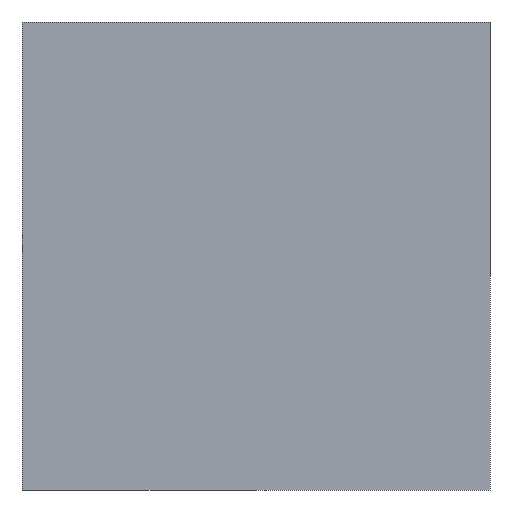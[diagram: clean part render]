
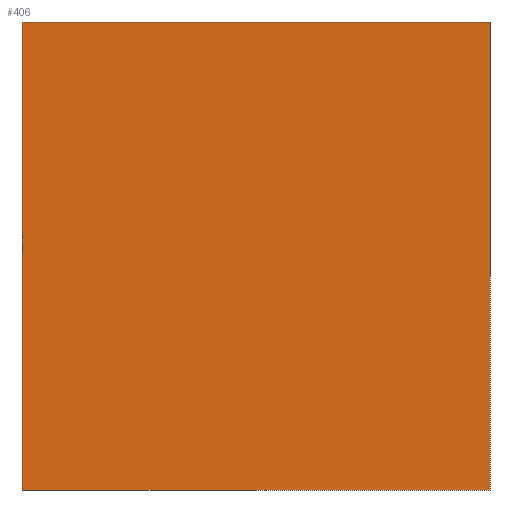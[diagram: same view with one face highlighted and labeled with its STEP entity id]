
A CAD part, left-side view. The second image highlights one B-rep face of the part: STEP entity #406.
In plain terms, the highlighted planar face has unit normal (-1, 0, 0).
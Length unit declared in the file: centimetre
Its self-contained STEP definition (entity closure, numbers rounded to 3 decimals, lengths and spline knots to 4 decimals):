
#6 = EDGE_CURVE ( 'NONE', #468, #376, #122, .T. ) ;
#10 = ORIENTED_EDGE ( 'NONE', *, *, #102, .T. ) ;
#27 = CARTESIAN_POINT ( 'NONE',  ( 0., 1000., 1000. ) ) ;
#43 = ORIENTED_EDGE ( 'NONE', *, *, #184, .F. ) ;
#55 = DIRECTION ( 'NONE',  ( 0., 0., -1. ) ) ;
#63 = DIRECTION ( 'NONE',  ( 1., 0., 0. ) ) ;
#65 = CARTESIAN_POINT ( 'NONE',  ( 0., 1000., 0. ) ) ;
#76 = EDGE_LOOP ( 'NONE', ( #151, #43, #288, #10 ) ) ;
#102 = EDGE_CURVE ( 'NONE', #468, #308, #427, .T. ) ;
#103 = VECTOR ( 'NONE', #354, 100. ) ;
#104 = EDGE_CURVE ( 'NONE', #308, #174, #240, .T. ) ;
#122 = LINE ( 'NONE', #210, #307 ) ;
#151 = ORIENTED_EDGE ( 'NONE', *, *, #104, .T. ) ;
#174 = VERTEX_POINT ( 'NONE', #197 ) ;
#184 = EDGE_CURVE ( 'NONE', #376, #174, #297, .T. ) ;
#197 = CARTESIAN_POINT ( 'NONE',  ( 0., 0., 0. ) ) ;
#207 = DIRECTION ( 'NONE',  ( 0., 0., -1. ) ) ;
#210 = CARTESIAN_POINT ( 'NONE',  ( 0., 1000., 1000. ) ) ;
#219 = VECTOR ( 'NONE', #346, 100. ) ;
#240 = LINE ( 'NONE', #65, #103 ) ;
#247 = CARTESIAN_POINT ( 'NONE',  ( 0., 0., 1000. ) ) ;
#265 = VECTOR ( 'NONE', #55, 100. ) ;
#279 = FACE_OUTER_BOUND ( 'NONE', #76, .T. ) ;
#288 = ORIENTED_EDGE ( 'NONE', *, *, #6, .F. ) ;
#297 = LINE ( 'NONE', #414, #265 ) ;
#307 = VECTOR ( 'NONE', #420, 100. ) ;
#308 = VERTEX_POINT ( 'NONE', #373 ) ;
#346 = DIRECTION ( 'NONE',  ( 0., 0., -1. ) ) ;
#354 = DIRECTION ( 'NONE',  ( 0., -1., 0. ) ) ;
#362 = CARTESIAN_POINT ( 'NONE',  ( 0., 1000., 1000. ) ) ;
#373 = CARTESIAN_POINT ( 'NONE',  ( 0., 1000., 0. ) ) ;
#376 = VERTEX_POINT ( 'NONE', #247 ) ;
#390 = PLANE ( 'NONE',  #464 ) ;
#406 = ADVANCED_FACE ( 'NONE', ( #279 ), #390, .F. ) ;
#414 = CARTESIAN_POINT ( 'NONE',  ( 0., 0., 1000. ) ) ;
#420 = DIRECTION ( 'NONE',  ( 0., -1., 0. ) ) ;
#424 = CARTESIAN_POINT ( 'NONE',  ( 0., 1000., 1000. ) ) ;
#427 = LINE ( 'NONE', #424, #219 ) ;
#464 = AXIS2_PLACEMENT_3D ( 'NONE', #27, #63, #207 ) ;
#468 = VERTEX_POINT ( 'NONE', #362 ) ;
